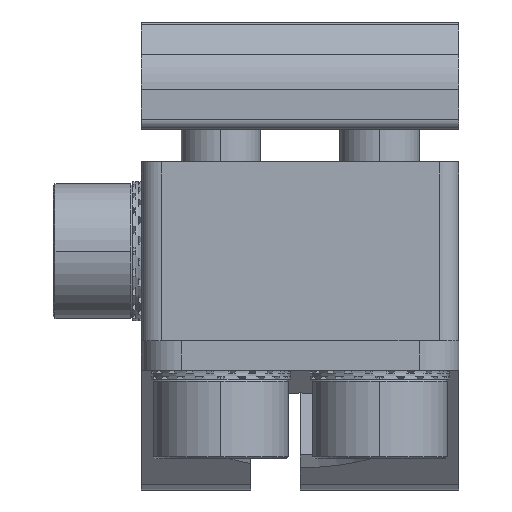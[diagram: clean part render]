
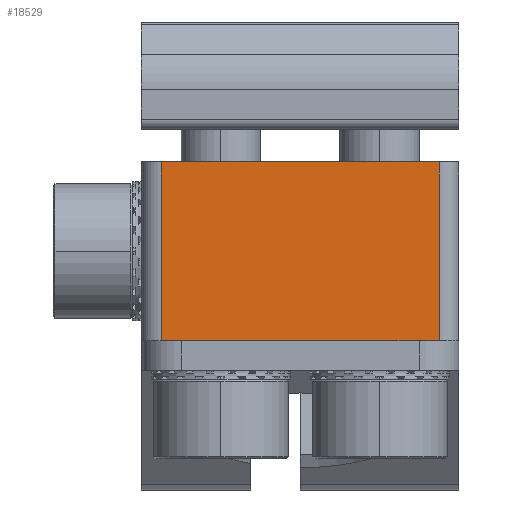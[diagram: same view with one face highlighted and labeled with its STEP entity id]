
A CAD part, left-side view. The second image highlights one B-rep face of the part: STEP entity #18529.
In plain terms, the highlighted planar face has unit normal (-1, 0, 0).
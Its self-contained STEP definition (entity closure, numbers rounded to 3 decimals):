
#178 = VECTOR ( 'NONE', #26213, 1000. ) ;
#6363 = VECTOR ( 'NONE', #14221, 1000. ) ;
#6477 = LINE ( 'NONE', #32742, #25631 ) ;
#7087 = LINE ( 'NONE', #16052, #178 ) ;
#8259 = EDGE_CURVE ( 'NONE', #14195, #22581, #31193, .T. ) ;
#8380 = VECTOR ( 'NONE', #10605, 1000. ) ;
#10416 = AXIS2_PLACEMENT_3D ( 'NONE', #32534, #29714, #11635 ) ;
#10451 = ORIENTED_EDGE ( 'NONE', *, *, #8259, .T. ) ;
#10605 = DIRECTION ( 'NONE',  ( 0., 0., 1. ) ) ;
#11479 = EDGE_LOOP ( 'NONE', ( #22536, #20548, #10451, #12799 ) ) ;
#11531 = CARTESIAN_POINT ( 'NONE',  ( -43.037, 2.565, 9.499 ) ) ;
#11635 = DIRECTION ( 'NONE',  ( 0., 0., -1. ) ) ;
#12799 = ORIENTED_EDGE ( 'NONE', *, *, #14607, .T. ) ;
#14154 = LINE ( 'NONE', #15932, #8380 ) ;
#14195 = VERTEX_POINT ( 'NONE', #24190 ) ;
#14221 = DIRECTION ( 'NONE',  ( 0., -1., 0. ) ) ;
#14334 = VERTEX_POINT ( 'NONE', #22099 ) ;
#14607 = EDGE_CURVE ( 'NONE', #22581, #22441, #14154, .T. ) ;
#15932 = CARTESIAN_POINT ( 'NONE',  ( -43.037, 2.565, 4.999 ) ) ;
#16052 = CARTESIAN_POINT ( 'NONE',  ( -43.037, 9.565, 9.499 ) ) ;
#16835 = PLANE ( 'NONE',  #10416 ) ;
#18529 = ADVANCED_FACE ( 'NONE', ( #18651 ), #16835, .F. ) ;
#18651 = FACE_OUTER_BOUND ( 'NONE', #11479, .T. ) ;
#20548 = ORIENTED_EDGE ( 'NONE', *, *, #29791, .F. ) ;
#22099 = CARTESIAN_POINT ( 'NONE',  ( -43.037, 16.565, 9.499 ) ) ;
#22441 = VERTEX_POINT ( 'NONE', #11531 ) ;
#22536 = ORIENTED_EDGE ( 'NONE', *, *, #23926, .F. ) ;
#22546 = CARTESIAN_POINT ( 'NONE',  ( -43.037, 2.565, 0.499 ) ) ;
#22581 = VERTEX_POINT ( 'NONE', #22546 ) ;
#23926 = EDGE_CURVE ( 'NONE', #14334, #22441, #7087, .T. ) ;
#24190 = CARTESIAN_POINT ( 'NONE',  ( -43.037, 16.565, 0.499 ) ) ;
#25631 = VECTOR ( 'NONE', #27457, 1000. ) ;
#26213 = DIRECTION ( 'NONE',  ( 0., -1., 0. ) ) ;
#27457 = DIRECTION ( 'NONE',  ( 0., 0., 1. ) ) ;
#29714 = DIRECTION ( 'NONE',  ( 1., 0., 0. ) ) ;
#29791 = EDGE_CURVE ( 'NONE', #14195, #14334, #6477, .T. ) ;
#30086 = CARTESIAN_POINT ( 'NONE',  ( -43.037, 9.565, 0.499 ) ) ;
#31193 = LINE ( 'NONE', #30086, #6363 ) ;
#32534 = CARTESIAN_POINT ( 'NONE',  ( -43.037, 2.565, 9.499 ) ) ;
#32742 = CARTESIAN_POINT ( 'NONE',  ( -43.037, 16.565, 4.999 ) ) ;
